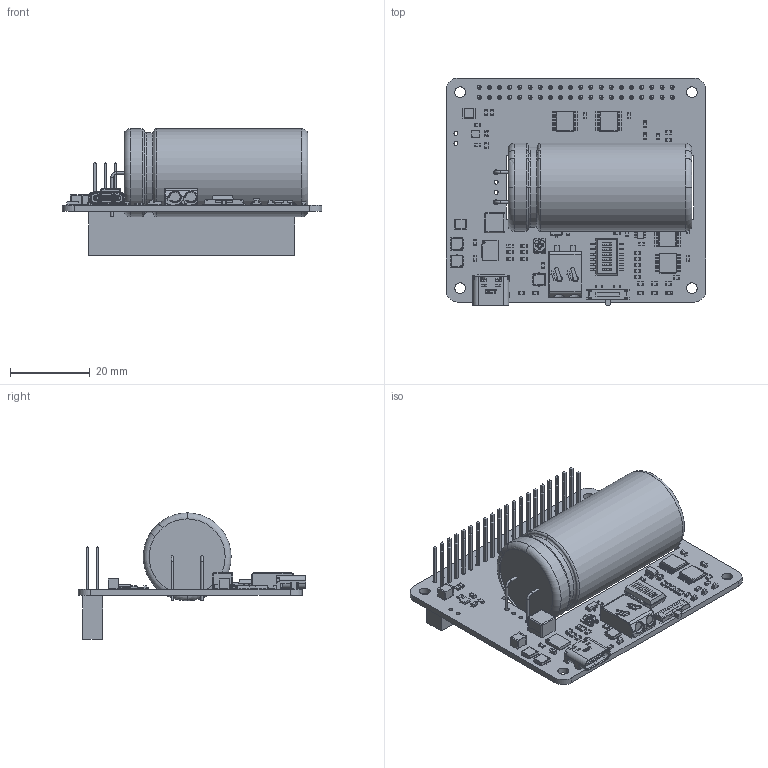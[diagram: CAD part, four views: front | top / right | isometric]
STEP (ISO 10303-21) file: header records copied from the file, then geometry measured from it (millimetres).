
FILE_DESCRIPTION(('FreeCAD Model'),'2;1');
FILE_NAME('Open CASCADE Shape Model','2026-04-28T22:38:15',(''),(''), 'Open CASCADE STEP processor 7.8','FreeCAD','Unknown');
FILE_SCHEMA(('AUTOMOTIVE_DESIGN { 1 0 10303 214 1 1 1 1 }'));
Length unit declared in the file: millimetre
Products named in the file (7): qUPS-P-SC-v1.3; Components; qUPS-P-SC-v1.3_PCB; Supercapacitor; Leg1; Leg2; Body001
Assembly tree (6 placements, depth 3):
  qUPS-P-SC-v1.3
    Components
    qUPS-P-SC-v1.3_PCB
    Supercapacitor
      Leg1
      Leg2
      Body001
Bounding box: 65 x 56.9 x 31.58 mm (x, y, z)
Volume: 25211.7 mm3; surface area: 17033.1 mm2
Topology: 167 solids, 167 shells, 5357 faces, 13900 edges, 8939 vertices
Faces by surface type: plane 3889, cylinder 1192, bspline 149, torus 59, cone 52, sphere 10, revolution 6
Full cylindrical faces by diameter (mm): 0.202 x1, 0.25 x6, 0.35 x2, 0.4 x6, 0.5 x3, 0.6 x6, 0.7 x1, 0.8 x2, 0.873 x1, 0.9 x2, 0.973 x1, 1 x44, 1.2 x2, 1.503 x1, 2 x1, 2.7 x4, 19 x1, 20 x1, 22 x2
Entity records: 166734 total; most frequent: CARTESIAN_POINT 34378, ORIENTED_EDGE 27762, DIRECTION 25827, EDGE_CURVE 13881, LINE 10777, VECTOR 10777, VERTEX_POINT 8939, AXIS2_PLACEMENT_3D 7522
